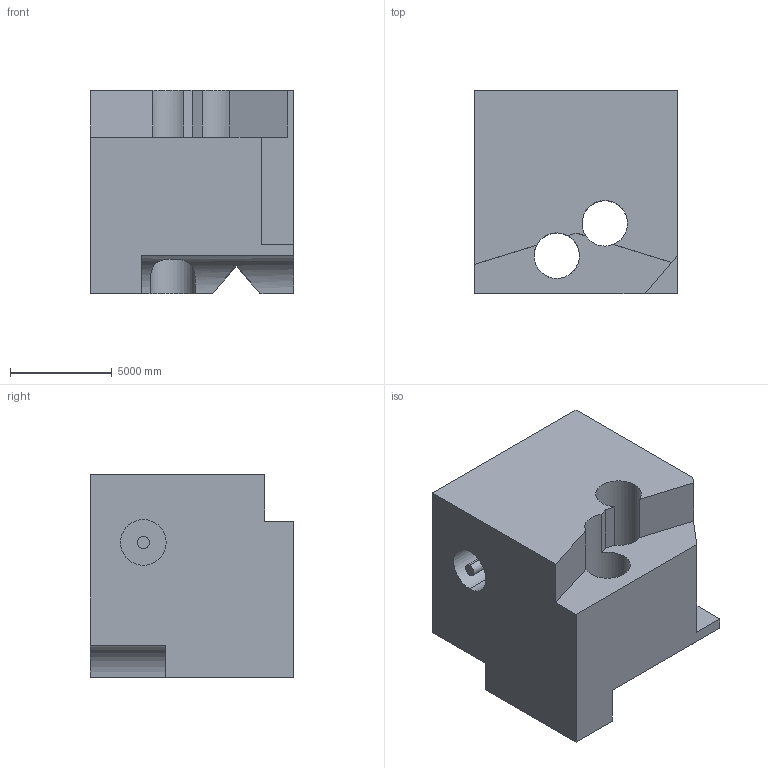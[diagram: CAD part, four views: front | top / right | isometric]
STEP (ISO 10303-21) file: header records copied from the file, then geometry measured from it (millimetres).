
FILE_DESCRIPTION (( 'STEP AP203' ), '1' );
FILE_NAME ('168.STEP', '2022-08-31T12:06:42', ( 'user' ), ( '' ), 'SwSTEP 2.0', 'SolidWorks 2021', '' );
FILE_SCHEMA (( 'CONFIG_CONTROL_DESIGN' ));
Length unit declared in the file: centimetre
Products named in the file (1): 168
Bounding box: 10000 x 10000 x 10000 mm (x, y, z)
Volume: 805763271195 mm3; surface area: 739350192.7 mm2
Topology: 1 solids, 1 shells, 34 faces, 99 edges, 66 vertices
Faces by surface type: plane 22, cylinder 12
Entity records: 1408 total; most frequent: CARTESIAN_POINT 411, ORIENTED_EDGE 198, DIRECTION 191, EDGE_CURVE 99, VERTEX_POINT 66, AXIS2_PLACEMENT_3D 64, LINE 63, VECTOR 63
